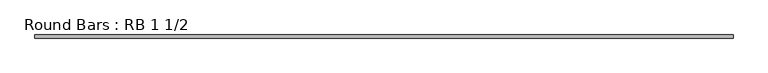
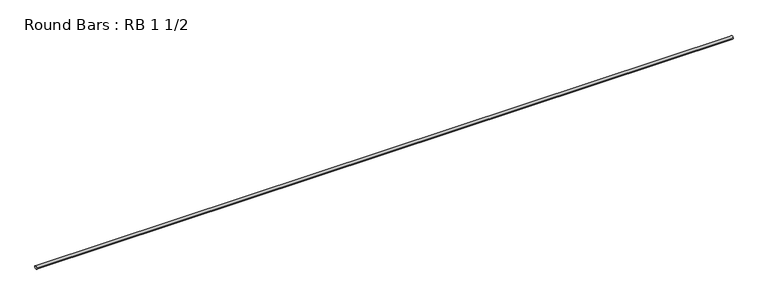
"""IFC4 building model written with IfcOpenShell, lengths in millimetres: member geometry, Round Bars : RB 1 1/2."""

from ifc_helpers import new_model, si_unit, point, frame, origin, origin_2d, place, context, project, spatial, circle_curve, trimmed, segment, composite_curve, outline, extrude, source, transform, mapped, element, save


def round_bars_rb_1_1_2_ac04effb(model_context):
    return source(origin(), model_context, "Body", "SweptSolid", [
        extrude(outline(composite_curve([segment(trimmed(circle_curve(origin_2d(), 19.05), [point((19.05, 0.0))], [point((-19.05, 0.0))], False, "CARTESIAN"), True, "CONTINUOUS"), segment(trimmed(circle_curve(origin_2d(), 19.05), [point((-19.05, 0.0))], [point((19.05, 0.0))], False, "CARTESIAN"), True, "CONTINUOUS")], self_intersect=False)), frame((-4246.2927655, 0.0, 0.0), z_axis=(1.0, 0.0, 0.0), x_axis=(0.0, 1.0, 0.0)), (0.0, 0.0, 1.0), 8459.6703308),
    ])


if __name__ == "__main__":
    model = new_model("IFC4")
    model_context = context("Model", 3, world=origin())
    ifc_project = project(units=[si_unit("LENGTHUNIT", "METRE", prefix="MILLI")], contexts=[model_context])
    site = spatial("IfcSite", under=ifc_project)
    building = spatial("IfcBuilding", under=site)
    placement = place(None, origin())
    round_bars_rb_1_1_2_shape = round_bars_rb_1_1_2_ac04effb(model_context)
    element("IfcMember", 1, ObjectType="Round Bars : RB 1 1/2", at=placement, inside=building, context=model_context, shape_type="MappedRepresentation", body=[
        mapped(round_bars_rb_1_1_2_shape, transform((0.0, 0.0, 0.0), x_axis=(1.0, 0.0, 0.0), y_axis=(0.0, 1.0, 0.0), z_axis=(0.0, 0.0, 1.0))),
    ])
    save(model, "model.ifc")
